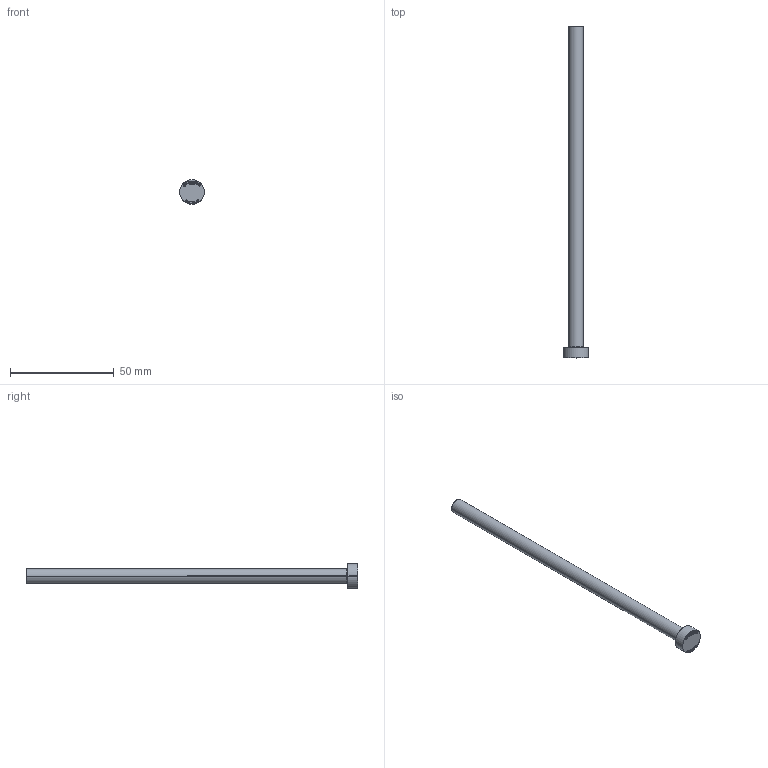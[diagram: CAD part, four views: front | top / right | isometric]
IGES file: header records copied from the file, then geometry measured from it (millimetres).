
Start section: SolidWorks IGES file using analytic representation for surfaces
Global section: file name: C:\Users\User\Downloads\Matripeça 31-08 tar\PB - PINO EXTRATOR TIPO _B_ (CATÁLOGO)\PB07,0\PB07,0160.IGS; native system: SolidWorks 2024; preprocessor: SolidWorks 2024; author: User; date: 260901.144638; units: millimetre
Bounding box: 12 x 160 x 12 mm (x, y, z)
Surface area: 3828 mm2 (no closed solid volume)
Topology: 0 solids, 0 shells, 391 faces, 3597 edges, 3597 vertices
Faces by surface type: bspline 377, revolution 14
